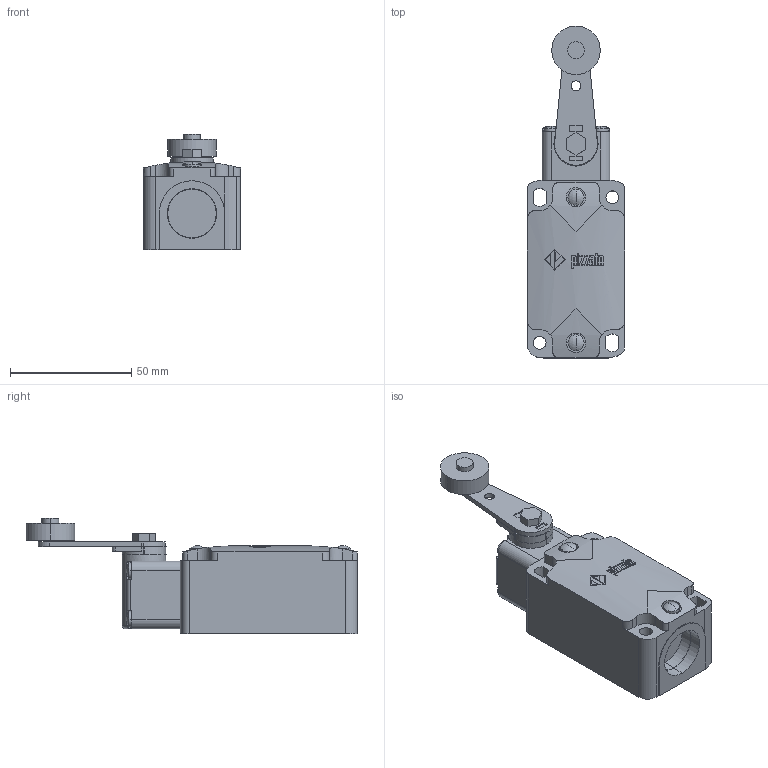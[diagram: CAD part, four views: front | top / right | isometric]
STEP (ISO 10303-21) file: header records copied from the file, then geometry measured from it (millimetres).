
FILE_DESCRIPTION (( 'STEP AP214' ), '1' );
FILE_NAME ('ZF_STEP_FD_x52_A10.step', '2014-04-10T09:01:06', ( 'utente' ), ( 'Microsoft' ), 'SwSTEP 2.0', 'SolidWorks 2013', '' );
FILE_SCHEMA (( 'AUTOMOTIVE_DESIGN' ));
Length unit declared in the file: millimetre
Products named in the file (8): ZF_STEP_VF_T52_A10; ZF_STEP_VF_L52_A10; Pizzato_L52; Vite_leve_pesanti; Pizzato_supporto-leva_serie_pesanti_262; Pizzato_Supporto_T58; Pizzato_Custodia_FD; ZF_STEP_FD_x52_A10
Assembly tree (7 placements, depth 4):
  ZF_STEP_FD_x52_A10
    Pizzato_Custodia_FD
    ZF_STEP_VF_T52_A10
      Pizzato_Supporto_T58
      ZF_STEP_VF_L52_A10
        Pizzato_supporto-leva_serie_pesanti_262
        Vite_leve_pesanti
        Pizzato_L52
Bounding box: 40 x 136.8 x 47.7 mm (x, y, z)
Volume: 116234.4 mm3; surface area: 26424.4 mm2
Topology: 5 solids, 5 shells, 815 faces, 2262 edges, 1508 vertices
Faces by surface type: plane 424, cylinder 280, bspline 97, sphere 12, torus 2
Entity records: 31672 total; most frequent: CARTESIAN_POINT 10635, ORIENTED_EDGE 4524, DIRECTION 4083, EDGE_CURVE 2262, VERTEX_POINT 1508, LINE 1385, VECTOR 1385, AXIS2_PLACEMENT_3D 1349
